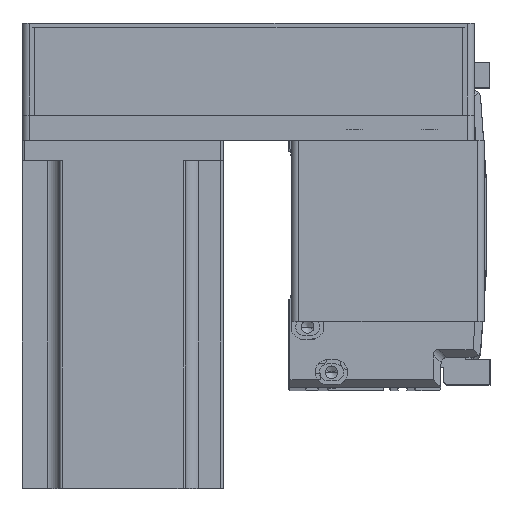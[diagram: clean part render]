
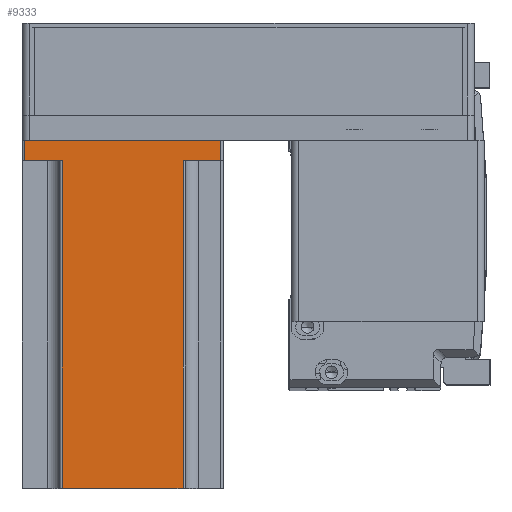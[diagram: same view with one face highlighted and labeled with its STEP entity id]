
A CAD part, top view. The second image highlights one B-rep face of the part: STEP entity #9333.
In plain terms, the highlighted planar face has unit normal (0, 0, 1) as drawn and (0, 1, 0) by its records, which use the part's own axes.
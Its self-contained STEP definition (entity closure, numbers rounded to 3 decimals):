
#19 = EDGE_CURVE ( 'NONE', #33171, #2232, #16771, .T. ) ;
#579 = ORIENTED_EDGE ( 'NONE', *, *, #3883, .T. ) ;
#1877 = VERTEX_POINT ( 'NONE', #14842 ) ;
#2232 = VERTEX_POINT ( 'NONE', #43304 ) ;
#2716 = CARTESIAN_POINT ( 'NONE',  ( -39., 40., 0. ) ) ;
#3429 = EDGE_CURVE ( 'NONE', #1877, #12966, #19014, .T. ) ;
#3431 = DIRECTION ( 'NONE',  ( 0., 0., -1. ) ) ;
#3596 = VERTEX_POINT ( 'NONE', #2716 ) ;
#3883 = EDGE_CURVE ( 'NONE', #3596, #1877, #25786, .T. ) ;
#4025 = LINE ( 'NONE', #17255, #13718 ) ;
#5187 = VERTEX_POINT ( 'NONE', #36290 ) ;
#5939 = ORIENTED_EDGE ( 'NONE', *, *, #19, .F. ) ;
#6580 = ORIENTED_EDGE ( 'NONE', *, *, #31978, .T. ) ;
#7051 = CARTESIAN_POINT ( 'NONE',  ( -24., 40., 138.3 ) ) ;
#7125 = ORIENTED_EDGE ( 'NONE', *, *, #3429, .T. ) ;
#8136 = VECTOR ( 'NONE', #29591, 1000. ) ;
#8340 = VERTEX_POINT ( 'NONE', #46020 ) ;
#9022 = ORIENTED_EDGE ( 'NONE', *, *, #46532, .T. ) ;
#9333 = ADVANCED_FACE ( 'NONE', ( #32051 ), #17711, .F. ) ;
#9702 = CARTESIAN_POINT ( 'NONE',  ( -39., 40., 138.3 ) ) ;
#10507 = DIRECTION ( 'NONE',  ( 0., -1., 0. ) ) ;
#12310 = LINE ( 'NONE', #14667, #30642 ) ;
#12584 = DIRECTION ( 'NONE',  ( -1., 0., 0. ) ) ;
#12887 = DIRECTION ( 'NONE',  ( 0., 0., 1. ) ) ;
#12966 = VERTEX_POINT ( 'NONE', #15594 ) ;
#13718 = VECTOR ( 'NONE', #31791, 1000. ) ;
#14667 = CARTESIAN_POINT ( 'NONE',  ( 24., 40., 138.3 ) ) ;
#14842 = CARTESIAN_POINT ( 'NONE',  ( -39., 40., 8. ) ) ;
#15594 = CARTESIAN_POINT ( 'NONE',  ( -24., 40., 8. ) ) ;
#16771 = LINE ( 'NONE', #42728, #45847 ) ;
#17255 = CARTESIAN_POINT ( 'NONE',  ( -24., 40., 138.3 ) ) ;
#17711 = PLANE ( 'NONE',  #41562 ) ;
#19014 = LINE ( 'NONE', #42317, #8136 ) ;
#19235 = CARTESIAN_POINT ( 'NONE',  ( 39., 40., 8. ) ) ;
#19621 = LINE ( 'NONE', #38084, #37866 ) ;
#19659 = DIRECTION ( 'NONE',  ( -1., 0., 0. ) ) ;
#21493 = VERTEX_POINT ( 'NONE', #7051 ) ;
#21761 = VECTOR ( 'NONE', #19659, 1000. ) ;
#22048 = DIRECTION ( 'NONE',  ( 0., 0., -1. ) ) ;
#22347 = ORIENTED_EDGE ( 'NONE', *, *, #42312, .T. ) ;
#22918 = LINE ( 'NONE', #23368, #21761 ) ;
#23368 = CARTESIAN_POINT ( 'NONE',  ( 40., 40., 138.3 ) ) ;
#25786 = LINE ( 'NONE', #9702, #34329 ) ;
#26333 = VECTOR ( 'NONE', #3431, 1000. ) ;
#28998 = CARTESIAN_POINT ( 'NONE',  ( 39., 40., 138.3 ) ) ;
#29591 = DIRECTION ( 'NONE',  ( 1., 0., 0. ) ) ;
#30642 = VECTOR ( 'NONE', #22048, 1000. ) ;
#31791 = DIRECTION ( 'NONE',  ( 0., 0., 1. ) ) ;
#31978 = EDGE_CURVE ( 'NONE', #12966, #21493, #4025, .T. ) ;
#32051 = FACE_OUTER_BOUND ( 'NONE', #32248, .T. ) ;
#32248 = EDGE_LOOP ( 'NONE', ( #7125, #6580, #35543, #43094, #5939, #9022, #22347, #579 ) ) ;
#32368 = CARTESIAN_POINT ( 'NONE',  ( 40., 40., 138.3 ) ) ;
#33171 = VERTEX_POINT ( 'NONE', #19235 ) ;
#34329 = VECTOR ( 'NONE', #12887, 1000. ) ;
#35543 = ORIENTED_EDGE ( 'NONE', *, *, #44035, .F. ) ;
#35997 = DIRECTION ( 'NONE',  ( 1., 0., 0. ) ) ;
#36290 = CARTESIAN_POINT ( 'NONE',  ( 24., 40., 138.3 ) ) ;
#37866 = VECTOR ( 'NONE', #41748, 1000. ) ;
#38084 = CARTESIAN_POINT ( 'NONE',  ( 40., 40., 0. ) ) ;
#38467 = EDGE_CURVE ( 'NONE', #5187, #2232, #12310, .T. ) ;
#41562 = AXIS2_PLACEMENT_3D ( 'NONE', #32368, #10507, #35997 ) ;
#41748 = DIRECTION ( 'NONE',  ( -1., 0., 0. ) ) ;
#42312 = EDGE_CURVE ( 'NONE', #8340, #3596, #19621, .T. ) ;
#42317 = CARTESIAN_POINT ( 'NONE',  ( -25., 40., 8. ) ) ;
#42728 = CARTESIAN_POINT ( 'NONE',  ( 25., 40., 8. ) ) ;
#43094 = ORIENTED_EDGE ( 'NONE', *, *, #38467, .T. ) ;
#43304 = CARTESIAN_POINT ( 'NONE',  ( 24., 40., 8. ) ) ;
#44035 = EDGE_CURVE ( 'NONE', #5187, #21493, #22918, .T. ) ;
#44562 = LINE ( 'NONE', #28998, #26333 ) ;
#45847 = VECTOR ( 'NONE', #12584, 1000. ) ;
#46020 = CARTESIAN_POINT ( 'NONE',  ( 39., 40., 0. ) ) ;
#46532 = EDGE_CURVE ( 'NONE', #33171, #8340, #44562, .T. ) ;
